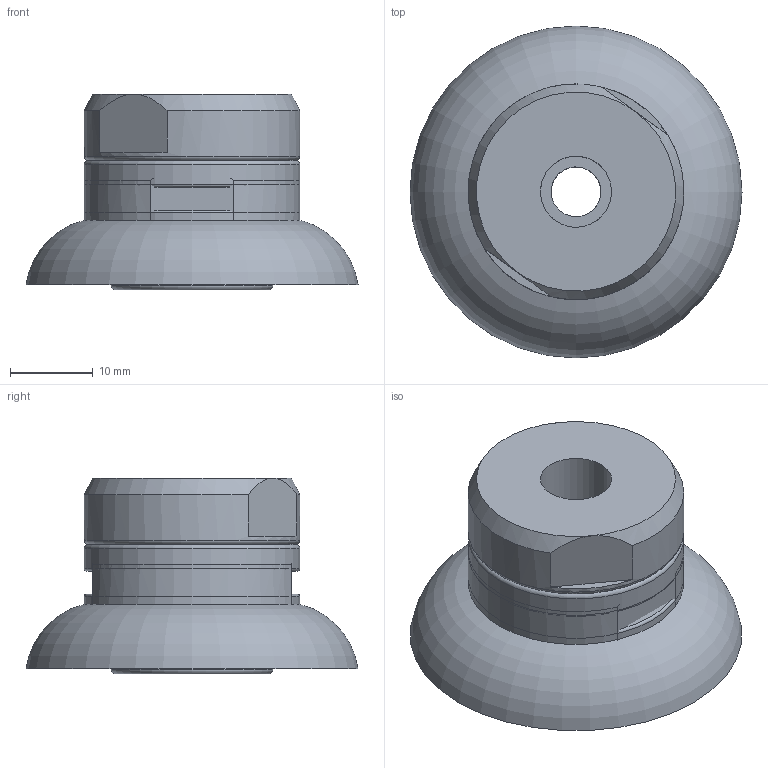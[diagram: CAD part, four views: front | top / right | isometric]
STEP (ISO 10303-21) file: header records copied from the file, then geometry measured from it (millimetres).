
FILE_DESCRIPTION( ( 'Unknown' ), '1' );
FILE_NAME( 'C:/Documents and Settings/owner/官帕 拳搁/MISUMI/PAD/KPS/KPS-9-N-18F.stp', 'Unknown', ( 'Unknown' ), ( 'Unknown' ), 'XStep 1.0', 'Unknown', ' ' );
FILE_SCHEMA( ( 'automotive_design' ) );
Length unit declared in the file: millimetre
Products named in the file (3): Assem1; 1_1; KPS9 18F
Bounding box: 40 x 40 x 23.6 mm (x, y, z)
Volume: 15181.3 mm3; surface area: 14710.8 mm2
Topology: 4 solids, 4 shells, 370 faces, 940 edges, 596 vertices
Faces by surface type: plane 186, cylinder 86, cone 40, torus 38, revolution 20
Full cylindrical faces by diameter (mm): 6 x2, 8.566 x2, 8.8 x2, 9 x2, 10 x2, 14 x2, 15 x2, 17 x2, 19.5 x2, 20 x2, 26 x6
Entity records: 6120 total; most frequent: CARTESIAN_POINT 1560, DIRECTION 900, ORIENTED_EDGE 886, EDGE_CURVE 443, AXIS2_PLACEMENT_3D 369, VERTEX_POINT 293, EDGE_LOOP 220, FACE_OUTER_BOUND 207
